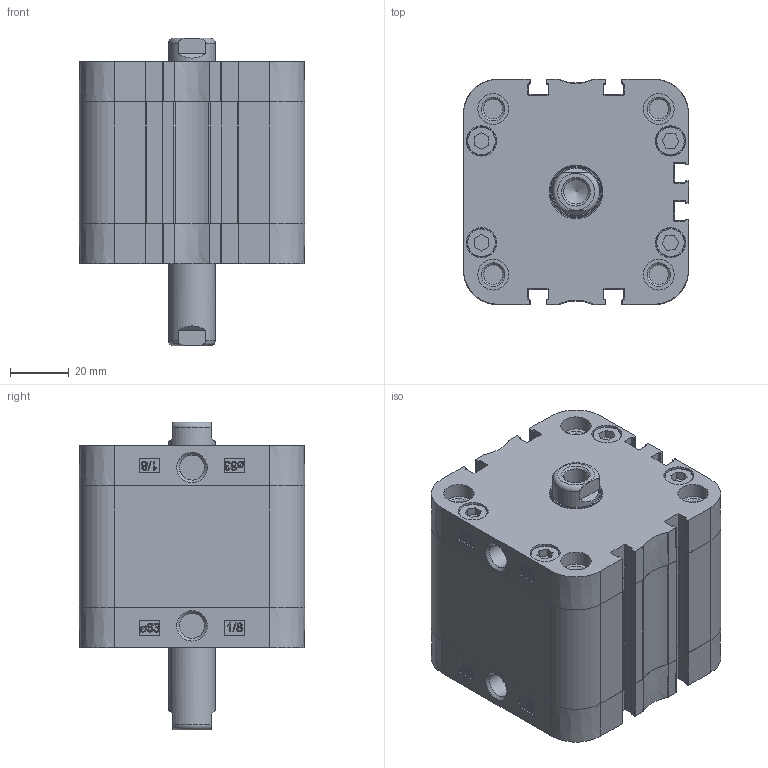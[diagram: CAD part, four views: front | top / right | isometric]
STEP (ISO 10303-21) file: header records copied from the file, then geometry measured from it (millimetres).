
FILE_DESCRIPTION(/* description */ ('Unknown'),/* implementation_level */ '2;1');
FILE_NAME(/* name */ 'ZBN 63_20',/* time_stamp */ '2024-11-15T12:13:03+01:00',/* author */ ('Unknown'),/* organization */ ('Unknown'),/* preprocessor_version */ 'ST-DEVELOPER v16.7',/* originating_system */ 'Solid Edge',/* authorisation */ 'Unknown');
FILE_SCHEMA (('AUTOMOTIVE_DESIGN {1 0 10303 214 3 1 1}'));
Length unit declared in the file: millimetre
Products named in the file (5): ZBN 63_20; Profilrohr; Kolbenstange; Kit_2; Kit_1
Assembly tree (5 placements, depth 2):
  ZBN 63_20
    Profilrohr
    Kolbenstange  x2
    Kit_2
    Kit_1
Bounding box: 77 x 77 x 105 mm (x, y, z)
Volume: 321021.6 mm3; surface area: 89958 mm2
Topology: 5 solids, 5 shells, 759 faces, 2009 edges, 1326 vertices
Faces by surface type: plane 352, cylinder 217, bspline 124, cone 44, torus 22
Full cylindrical faces by diameter (mm): 6.647 x8, 8.376 x4, 8.566 x2, 9.8 x8, 10.3 x8, 10.5 x8, 16 x2, 16.54 x2, 17.7 x2, 18 x2, 20.5 x2, 63 x3
Entity records: 27964 total; most frequent: CARTESIAN_POINT 5816, ORIENTED_EDGE 3716, DIRECTION 3338, EDGE_CURVE 1858, VERTEX_POINT 1287, AXIS2_PLACEMENT_3D 1125, LINE 1088, VECTOR 1088
